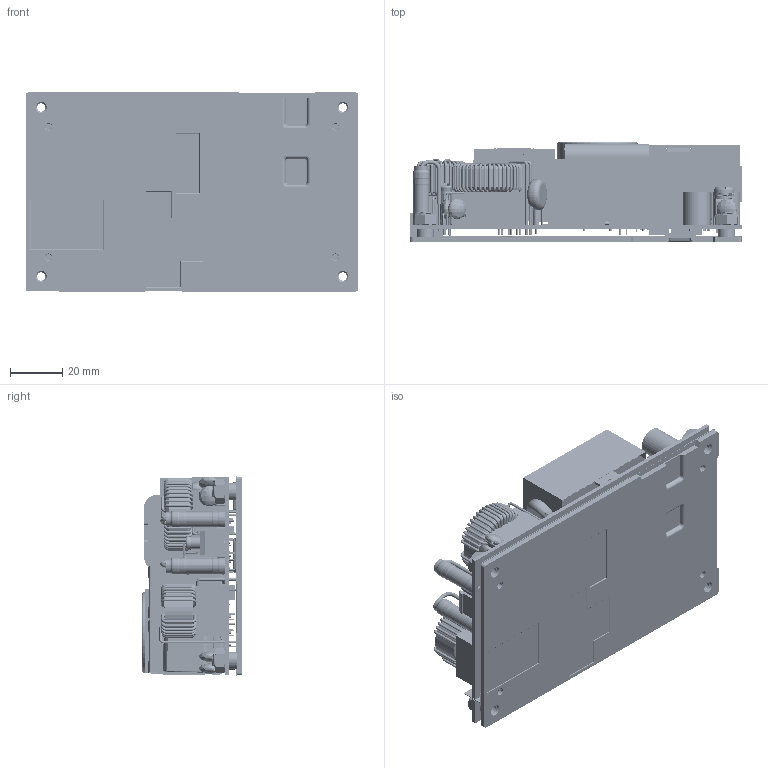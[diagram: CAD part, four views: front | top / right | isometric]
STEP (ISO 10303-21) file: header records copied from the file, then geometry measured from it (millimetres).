
FILE_DESCRIPTION (( 'STEP AP203' ), '1' );
FILE_NAME ('CFM600SXXX ¦¨«~¹Ï-20260615.STEP', '2026-06-15T01:03:30', ( 'cincon' ), ( '' ), 'SwSTEP 2.0', 'SolidWorks 2020', '' );
FILE_SCHEMA (( 'CONFIG_CONTROL_DESIGN' ));
Length unit declared in the file: millimetre
Products named in the file (52): CFM500M RELAY1; Electrolitic Capacitor Radial (6.5X12); CFM600S PCBA-20260331; G7424006938 B2P3-VH 2PIN(3孔)插座示意圖-1130620; CFM500M CY1-1081223; CFM500M T2變壓器 BASE-1081227; VR 3362W ; 10x12.6mm電容+熱縮套管-0513; 螺母M5-1030904; 6.4x11.6mm電容+熱縮套管-0514; CFM500M LPF1變壓器示意圖-10812; CFM600S ､pPCBA ｱｱ･d-1130619; 10x12.6mm電容; CFM500M C3-1090513; PCB-58M4 KY PC板焊接端子2019.10.07; CFM500M CY2-1061211; CFM600S 黃色絕緣膠帶 G6162005200-1130528; CFM500M 3M 1350T-3膠帶C G6162000400-1090305; CFM600S 絕緣片  G612917J204-1130430_成型; CFM500M Z1-10812; (參考)Header 1.27 Horizontal 6x-10812_切掉; CFM400M保險絲示意圖2021.03.12; CFM500M 3M 1350T-3膠帶A G6162000200-1090305; CFM500M QE27  Core 示意圖-1081224 ; CFM500M鋁板散熱片 G6612780421(M-B159-00-J)-1130621 未進V1.1版前請抓這個圖檔; CFM600M 電感L2示意圖-20260331; b304f-12rgf-104-lx; ¼uÂ®µØ¥q£X4.2(M-B057-00-S)G75M5950131; CFM300M 6.4mm電容; CFM500M C1 30.8x31.8mm電容; 溫度開關(參考)-1090513; 60QC06; CFM500M 電感示意圖(02)-1081126; CFM500M鋁板散熱片 G6612780421(M-B159-00-J)-1090423; M4x6mm螺絲(M-B056-00-S)G75M3200121; CFM500M LPF1 bobbin示意圖-10812; CFM500M絕緣片C-N3-8 G612914D204 1091008_預設SM-FLAT-PATTERN; CFM300M六角銅柱M5-1040518; WAFER P110I-04 G7424365918 TKP示意圖2023.07.10; CFM500M變壓器A-1090513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
Assembly tree (76 placements, depth 4):
  CFM600SXXX 成品圖-20260615
    CFM600S PCBA-20260331
      CFM600S PCB-1130619
      CFM500M變壓器A-1090513
      CFM500M LPF1變壓器示意圖-10812
        CFM500M LPF1 bobbin示意圖-10812
        CFM500M QE27  Core 示意圖-1081224 
        CFM500M QE27  Core 示意圖-1081224 _加膠帶
      CFM500M LPF1變壓器示意圖-10812
        CFM500M LPF1 bobbin示意圖-10812
        CFM500M QE27  Core 示意圖-1081224 
        CFM500M QE27  Core 示意圖-1081224 _加膠帶
      CFM500M C1 30.8x31.8mm電容
      6.4x11.6mm電容+熱縮套管-0514  x2
      10x12.6mm電容+熱縮套管-0513  x2
      10x12.6mm電容  x3
      D4
      Electrolitic Capacitor Radial (6.5X12)
      CFM400M保險絲示意圖2021.03.12  x2
      CFM500M電阻示意圖  x2
      CFM500M RELAY1
      CFM500M C3-1090513
      CFM500M C61-1081223
      CFM600M 電感L2示意圖-20260331
      CFM500M 電感示意圖(02)-1081126
      G7424006938 B2P3-VH 2PIN(3孔)插座示意圖-1130620
      WAFER P110I-04 G7424365918 TKP示意圖2023.07.10
      CFM500M T2變壓器 BASE-1081227
      CFM500M變壓器C-1090514
      60QC06
      PCB-58M4 KY PC板焊接端子2019.10.07  x2
      ¼uÂ®µØ¥q£X4.2(M-B057-00-S)G75M5950131  x2
      M4x6mm螺絲(M-B056-00-S)G75M3200121  x2
      CFM500M CY1-1081223  x4
      CFM500M Z1-10812
      CFM500M CY2-1061211
      OptoCoupler TLP521-2
      6.4x12mm電容-0514
      溫度開關(參考)-1090513
      (參考)Header 1.27 Horizontal 6x-10812_切掉  x2
      CFM500M絕緣片C-N3-8 G612914D204 1091008_預設SM-FLAT-PATTERN
    CFM600S ､pPCBA ｱｱ･d-1130619
      CFM600S ､pPCB ｱｱ･d-1130619
      OptoCoupler TLP521-2  x3
      CFM300M 6.4mm電容
      VR 3362W 
      CFM500M絕緣片B單背黑色膠帶PET(TKB25)G612914C304-1090408_組裝模擬
      b304f-12rgf-104-lx
    螺母M5-1030904  x4
    CFM500M鋁板散熱片 G6612780421(M-B159-00-J)-1130621 未進V1.1版前請抓這個圖檔
      CFM300M六角銅柱M5-1040518  x4
      CFM500M鋁板散熱片 G6612780421(M-B159-00-J)-1090423
    CFM600S 絕緣片  G612917J204-1130430_成型
    CFM600S 黃色絕緣膠帶 G6162005200-1130528
    CFM500M 3M 1350T-3膠帶A G6162000200-1090305
    CFM500M 3M 1350T-3膠帶C G6162000400-1090305
Bounding box: 127.3 x 38.4 x 76.5 mm (x, y, z)
Volume: 174879.7 mm3; surface area: 168414.7 mm2
Topology: 169 solids, 169 shells, 5951 faces, 15308 edges, 9776 vertices
Faces by surface type: plane 2594, cylinder 2021, torus 921, bspline 219, cone 192, sphere 4
Entity records: 161993 total; most frequent: CARTESIAN_POINT 39717, DIRECTION 25626, ORIENTED_EDGE 23982, EDGE_CURVE 11991, AXIS2_PLACEMENT_3D 9784, VERTEX_POINT 7705, LINE 6058, VECTOR 6058
